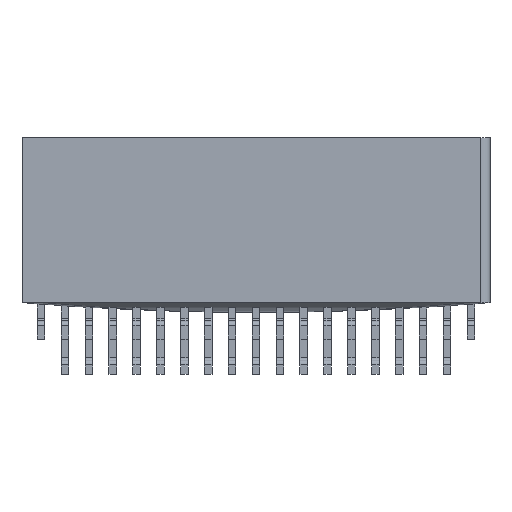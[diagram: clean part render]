
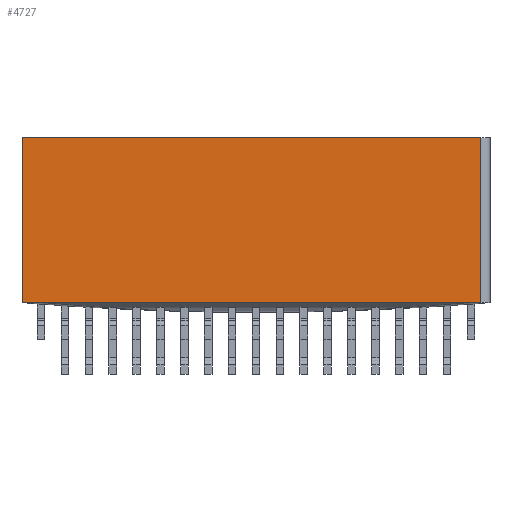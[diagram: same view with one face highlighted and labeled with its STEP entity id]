
A CAD part, front view. The second image highlights one B-rep face of the part: STEP entity #4727.
In plain terms, the highlighted planar face has unit normal (0, -1, 0).
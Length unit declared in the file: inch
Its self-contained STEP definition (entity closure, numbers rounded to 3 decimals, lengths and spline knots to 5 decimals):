
#68 = ORIENTED_EDGE ( 'NONE', *, *, #3552, .F. ) ;
#2037 = CARTESIAN_POINT ( 'NONE',  ( -0.37, -0.035, -0.0865 ) ) ;
#3342 = VECTOR ( 'NONE', #10254, 39.37008 ) ;
#3552 = EDGE_CURVE ( 'NONE', #26759, #17664, #23777, .T. ) ;
#4520 = LINE ( 'NONE', #15217, #15961 ) ;
#4677 = DIRECTION ( 'NONE',  ( 0., 0., 1. ) ) ;
#4727 = ADVANCED_FACE ( 'NONE', ( #26228 ), #27195, .T. ) ;
#5243 = EDGE_CURVE ( 'NONE', #17664, #25936, #15477, .T. ) ;
#6053 = ORIENTED_EDGE ( 'NONE', *, *, #23069, .F. ) ;
#7311 = CARTESIAN_POINT ( 'NONE',  ( -0.245, -0.035, -0.0865 ) ) ;
#8752 = VERTEX_POINT ( 'NONE', #12111 ) ;
#10254 = DIRECTION ( 'NONE',  ( 1., 0., 0. ) ) ;
#12111 = CARTESIAN_POINT ( 'NONE',  ( 0.235, -0.035, -0.0865 ) ) ;
#12237 = CARTESIAN_POINT ( 'NONE',  ( -0.245, -0.035, 0.0865 ) ) ;
#12938 = LINE ( 'NONE', #23363, #24353 ) ;
#13113 = ORIENTED_EDGE ( 'NONE', *, *, #20311, .T. ) ;
#15217 = CARTESIAN_POINT ( 'NONE',  ( -0.37, -0.035, -0.0865 ) ) ;
#15477 = LINE ( 'NONE', #23914, #3342 ) ;
#15826 = DIRECTION ( 'NONE',  ( 0., 0., -1. ) ) ;
#15961 = VECTOR ( 'NONE', #26605, 39.37008 ) ;
#17664 = VERTEX_POINT ( 'NONE', #12237 ) ;
#17704 = VECTOR ( 'NONE', #4677, 39.37008 ) ;
#19209 = EDGE_LOOP ( 'NONE', ( #68, #6053, #13113, #27011 ) ) ;
#19786 = AXIS2_PLACEMENT_3D ( 'NONE', #2037, #29464, #15826 ) ;
#20311 = EDGE_CURVE ( 'NONE', #8752, #25936, #12938, .T. ) ;
#23069 = EDGE_CURVE ( 'NONE', #8752, #26759, #4520, .T. ) ;
#23363 = CARTESIAN_POINT ( 'NONE',  ( 0.235, -0.035, 0.0865 ) ) ;
#23777 = LINE ( 'NONE', #27430, #17704 ) ;
#23914 = CARTESIAN_POINT ( 'NONE',  ( -0.37, -0.035, 0.0865 ) ) ;
#24353 = VECTOR ( 'NONE', #25903, 39.37008 ) ;
#25903 = DIRECTION ( 'NONE',  ( 0., 0., 1. ) ) ;
#25936 = VERTEX_POINT ( 'NONE', #26660 ) ;
#26228 = FACE_OUTER_BOUND ( 'NONE', #19209, .T. ) ;
#26605 = DIRECTION ( 'NONE',  ( -1., 0., 0. ) ) ;
#26660 = CARTESIAN_POINT ( 'NONE',  ( 0.235, -0.035, 0.0865 ) ) ;
#26759 = VERTEX_POINT ( 'NONE', #7311 ) ;
#27011 = ORIENTED_EDGE ( 'NONE', *, *, #5243, .F. ) ;
#27195 = PLANE ( 'NONE',  #19786 ) ;
#27430 = CARTESIAN_POINT ( 'NONE',  ( -0.245, -0.035, -0.0865 ) ) ;
#29464 = DIRECTION ( 'NONE',  ( 0., -1., 0. ) ) ;
